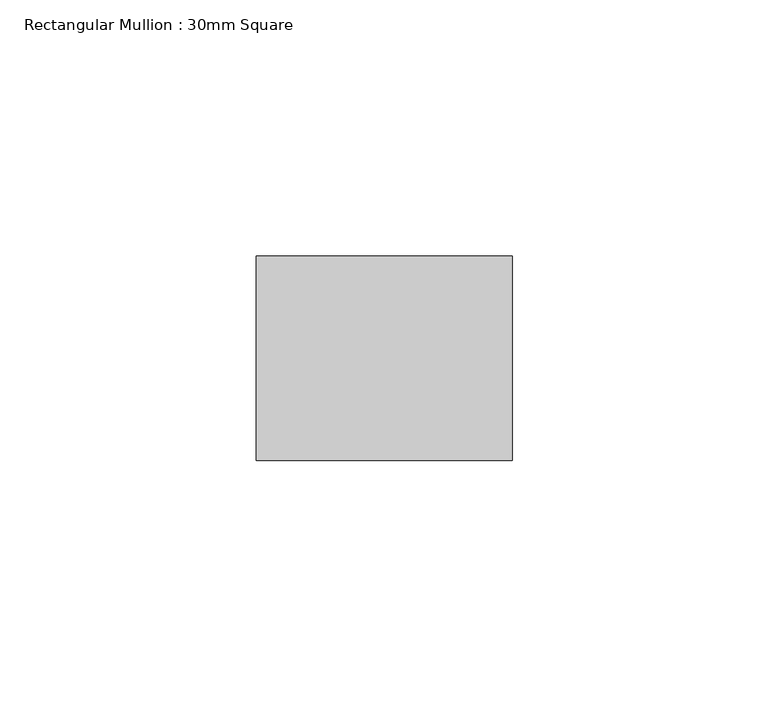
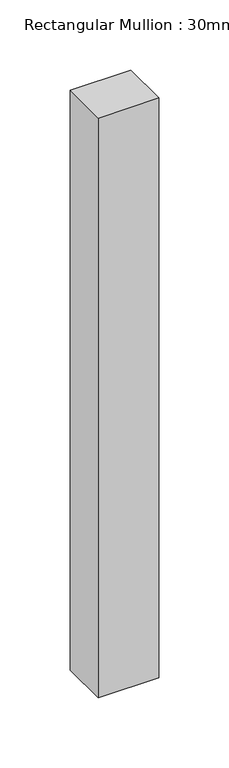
"""IFC4 building model written with IfcOpenShell, lengths in millimetres: member geometry, Rectangular Mullion : 30mm Square."""

from ifc_helpers import new_model, si_unit, frame, origin, place, context, project, spatial, polyline, outline, extrude, source, transform, mapped, element, save


def rectangular_mullion_30mm_square_75a85c25(model_context):
    return source(origin(), model_context, "Body", "SweptSolid", [
        extrude(outline(polyline([(25.0, 20.0), (25.0, -20.0), (-25.0, -20.0), (-25.0, 20.0), (25.0, 20.0)])), frame((0.0, 0.0, -505.0), z_axis=(0.0, 0.0, 1.0), x_axis=(1.0, 0.0, 0.0)), (0.0, 0.0, 1.0), 505.0),
    ])


if __name__ == "__main__":
    model = new_model("IFC4")
    model_context = context("Model", 3, world=origin())
    ifc_project = project(units=[si_unit("LENGTHUNIT", "METRE", prefix="MILLI")], contexts=[model_context])
    site = spatial("IfcSite", under=ifc_project)
    building = spatial("IfcBuilding", under=site)
    placement = place(None, origin())
    rectangular_mullion_30mm_square_shape = rectangular_mullion_30mm_square_75a85c25(model_context)
    element("IfcMember", 1, ObjectType="Rectangular Mullion : 30mm Square", at=placement, inside=building, context=model_context, shape_type="MappedRepresentation", body=[
        mapped(rectangular_mullion_30mm_square_shape, transform((0.0, 0.0, 0.0), x_axis=(1.0, 0.0, 0.0), y_axis=(0.0, 1.0, 0.0), z_axis=(0.0, 0.0, 1.0))),
    ])
    save(model, "model.ifc")
